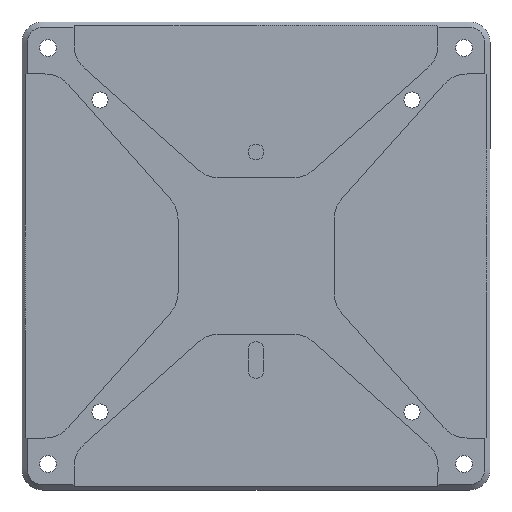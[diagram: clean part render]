
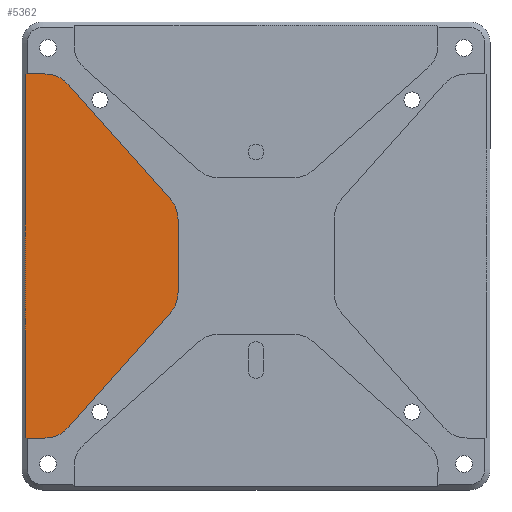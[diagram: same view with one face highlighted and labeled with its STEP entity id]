
A CAD part, front view. The second image highlights one B-rep face of the part: STEP entity #5362.
In plain terms, the highlighted planar face has unit normal (0, -1, 0).
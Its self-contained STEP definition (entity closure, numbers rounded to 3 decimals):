
#81 = ORIENTED_EDGE ( 'NONE', *, *, #7436, .T. ) ;
#178 = ORIENTED_EDGE ( 'NONE', *, *, #1309, .T. ) ;
#194 = CIRCLE ( 'NONE', #4540, 3. ) ;
#196 = ORIENTED_EDGE ( 'NONE', *, *, #5866, .T. ) ;
#223 = CARTESIAN_POINT ( 'NONE',  ( -22.2, 0.2, 17.5 ) ) ;
#309 = DIRECTION ( 'NONE',  ( 0., 0., -1. ) ) ;
#393 = VERTEX_POINT ( 'NONE', #1756 ) ;
#554 = VERTEX_POINT ( 'NONE', #2215 ) ;
#623 = EDGE_CURVE ( 'NONE', #2904, #5490, #194, .T. ) ;
#644 = VERTEX_POINT ( 'NONE', #3415 ) ;
#673 = ORIENTED_EDGE ( 'NONE', *, *, #5508, .T. ) ;
#802 = DIRECTION ( 'NONE',  ( 0., 0., -1. ) ) ;
#926 = EDGE_CURVE ( 'NONE', #5375, #1862, #6857, .T. ) ;
#949 = CARTESIAN_POINT ( 'NONE',  ( -22.5, 0.2, 17.5 ) ) ;
#950 = DIRECTION ( 'NONE',  ( 0., 0., 1. ) ) ;
#977 = LINE ( 'NONE', #3345, #3079 ) ;
#997 = DIRECTION ( 'NONE',  ( 0., -1., 0. ) ) ;
#1309 = EDGE_CURVE ( 'NONE', #554, #1862, #4442, .T. ) ;
#1310 = CARTESIAN_POINT ( 'NONE',  ( -18.059, 0.2, -16.498 ) ) ;
#1509 = DIRECTION ( 'NONE',  ( 0., 0., -1. ) ) ;
#1523 = DIRECTION ( 'NONE',  ( 0., 0., 1. ) ) ;
#1524 = CARTESIAN_POINT ( 'NONE',  ( -8.262, 0.2, 5.527 ) ) ;
#1533 = CARTESIAN_POINT ( 'NONE',  ( -7.5, 0.2, -3.529 ) ) ;
#1538 = VECTOR ( 'NONE', #4452, 1000. ) ;
#1622 = EDGE_LOOP ( 'NONE', ( #5708, #81, #3968, #2559, #196, #1991, #4383, #673, #178, #1723 ) ) ;
#1723 = ORIENTED_EDGE ( 'NONE', *, *, #926, .F. ) ;
#1756 = CARTESIAN_POINT ( 'NONE',  ( -18.059, 0.2, 16.498 ) ) ;
#1862 = VERTEX_POINT ( 'NONE', #223 ) ;
#1894 = LINE ( 'NONE', #1310, #4991 ) ;
#1947 = VECTOR ( 'NONE', #5725, 1000. ) ;
#1991 = ORIENTED_EDGE ( 'NONE', *, *, #6297, .T. ) ;
#2215 = CARTESIAN_POINT ( 'NONE',  ( -20.297, 0.2, 17.5 ) ) ;
#2249 = EDGE_CURVE ( 'NONE', #5375, #4597, #5538, .T. ) ;
#2297 = DIRECTION ( 'NONE',  ( 0., -1., 0. ) ) ;
#2460 = CARTESIAN_POINT ( 'NONE',  ( -18.059, 0.2, -16.498 ) ) ;
#2503 = AXIS2_PLACEMENT_3D ( 'NONE', #6884, #6273, #950 ) ;
#2514 = DIRECTION ( 'NONE',  ( 0.666, 0., 0.746 ) ) ;
#2545 = PLANE ( 'NONE',  #6349 ) ;
#2559 = ORIENTED_EDGE ( 'NONE', *, *, #623, .T. ) ;
#2720 = EDGE_CURVE ( 'NONE', #7167, #393, #977, .T. ) ;
#2904 = VERTEX_POINT ( 'NONE', #4239 ) ;
#3079 = VECTOR ( 'NONE', #5717, 1000. ) ;
#3148 = EDGE_CURVE ( 'NONE', #4618, #2904, #1894, .T. ) ;
#3161 = CARTESIAN_POINT ( 'NONE',  ( -22.5, 0.2, -17.5 ) ) ;
#3345 = CARTESIAN_POINT ( 'NONE',  ( -18.059, 0.2, 16.498 ) ) ;
#3415 = CARTESIAN_POINT ( 'NONE',  ( -7.5, 0.2, 3.529 ) ) ;
#3749 = FACE_OUTER_BOUND ( 'NONE', #1622, .T. ) ;
#3755 = VECTOR ( 'NONE', #1523, 1000. ) ;
#3833 = VECTOR ( 'NONE', #7240, 1000. ) ;
#3968 = ORIENTED_EDGE ( 'NONE', *, *, #3148, .T. ) ;
#4014 = CIRCLE ( 'NONE', #5498, 3. ) ;
#4185 = DIRECTION ( 'NONE',  ( 0., -1., 0. ) ) ;
#4239 = CARTESIAN_POINT ( 'NONE',  ( -8.262, 0.2, -5.527 ) ) ;
#4383 = ORIENTED_EDGE ( 'NONE', *, *, #2720, .T. ) ;
#4442 = LINE ( 'NONE', #949, #1947 ) ;
#4452 = DIRECTION ( 'NONE',  ( 0., 0., 1. ) ) ;
#4490 = CIRCLE ( 'NONE', #2503, 3. ) ;
#4540 = AXIS2_PLACEMENT_3D ( 'NONE', #6328, #997, #1509 ) ;
#4586 = DIRECTION ( 'NONE',  ( 0., 0., 1. ) ) ;
#4597 = VERTEX_POINT ( 'NONE', #7152 ) ;
#4618 = VERTEX_POINT ( 'NONE', #2460 ) ;
#4991 = VECTOR ( 'NONE', #2514, 1000. ) ;
#5040 = AXIS2_PLACEMENT_3D ( 'NONE', #7404, #6826, #309 ) ;
#5362 = ADVANCED_FACE ( 'NONE', ( #3749 ), #2545, .T. ) ;
#5375 = VERTEX_POINT ( 'NONE', #6582 ) ;
#5490 = VERTEX_POINT ( 'NONE', #1533 ) ;
#5498 = AXIS2_PLACEMENT_3D ( 'NONE', #6941, #2297, #4586 ) ;
#5508 = EDGE_CURVE ( 'NONE', #393, #554, #4490, .T. ) ;
#5538 = LINE ( 'NONE', #3161, #3833 ) ;
#5708 = ORIENTED_EDGE ( 'NONE', *, *, #2249, .T. ) ;
#5717 = DIRECTION ( 'NONE',  ( -0.666, 0., 0.746 ) ) ;
#5725 = DIRECTION ( 'NONE',  ( -1., 0., 0. ) ) ;
#5736 = CARTESIAN_POINT ( 'NONE',  ( -22.2, 0.2, -22.5 ) ) ;
#5866 = EDGE_CURVE ( 'NONE', #5490, #644, #7447, .T. ) ;
#6120 = CARTESIAN_POINT ( 'NONE',  ( -20.297, 0.2, -14.5 ) ) ;
#6273 = DIRECTION ( 'NONE',  ( 0., -1., 0. ) ) ;
#6297 = EDGE_CURVE ( 'NONE', #644, #7167, #4014, .T. ) ;
#6328 = CARTESIAN_POINT ( 'NONE',  ( -10.5, 0.2, -3.529 ) ) ;
#6349 = AXIS2_PLACEMENT_3D ( 'NONE', #6120, #4185, #802 ) ;
#6540 = CIRCLE ( 'NONE', #5040, 3. ) ;
#6582 = CARTESIAN_POINT ( 'NONE',  ( -22.2, 0.2, -17.5 ) ) ;
#6721 = CARTESIAN_POINT ( 'NONE',  ( -7.5, 0.2, -3.529 ) ) ;
#6826 = DIRECTION ( 'NONE',  ( 0., -1., 0. ) ) ;
#6857 = LINE ( 'NONE', #5736, #1538 ) ;
#6884 = CARTESIAN_POINT ( 'NONE',  ( -20.297, 0.2, 14.5 ) ) ;
#6941 = CARTESIAN_POINT ( 'NONE',  ( -10.5, 0.2, 3.529 ) ) ;
#7152 = CARTESIAN_POINT ( 'NONE',  ( -20.297, 0.2, -17.5 ) ) ;
#7167 = VERTEX_POINT ( 'NONE', #1524 ) ;
#7240 = DIRECTION ( 'NONE',  ( 1., 0., 0. ) ) ;
#7404 = CARTESIAN_POINT ( 'NONE',  ( -20.297, 0.2, -14.5 ) ) ;
#7436 = EDGE_CURVE ( 'NONE', #4597, #4618, #6540, .T. ) ;
#7447 = LINE ( 'NONE', #6721, #3755 ) ;
